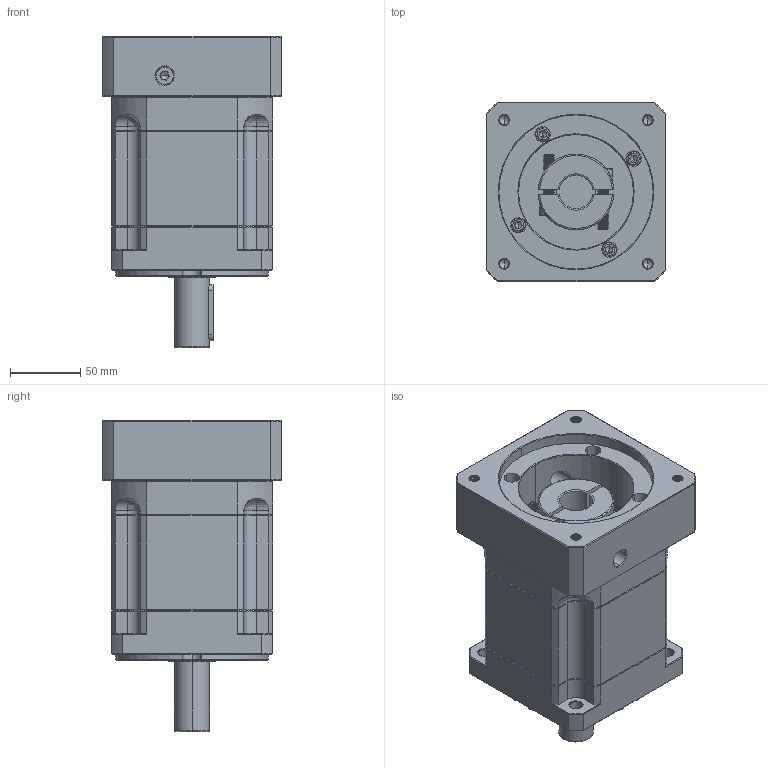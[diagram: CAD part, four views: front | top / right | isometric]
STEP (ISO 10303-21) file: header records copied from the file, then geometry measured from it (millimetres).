
FILE_DESCRIPTION (( 'STEP AP214' ), '1' );
FILE_NAME ('ZB115A-D25-L2-P2-24-110-145-M8.step', '2023-08-26T06:24:00', ( '' ), ( '' ), 'SwSTEP 2.0', 'SolidWorks 2016', '' );
FILE_SCHEMA (( 'AUTOMOTIVE_DESIGN' ));
Length unit declared in the file: millimetre
Products named in the file (1): ZB115A-D25-L2-P2-24-110-145-M8
Bounding box: 128 x 128 x 222 mm (x, y, z)
Volume: 1940742.9 mm3; surface area: 190059.5 mm2
Topology: 6 solids, 6 shells, 2390 faces, 6267 edges, 3976 vertices
Faces by surface type: plane 1143, cylinder 439, bspline 423, cone 365, torus 20
Entity records: 128666 total; most frequent: CARTESIAN_POINT 47120, ORIENTED_EDGE 12466, DIRECTION 9863, EDGE_CURVE 6233, LINE 3993, VECTOR 3993, VERTEX_POINT 3976, AXIS2_PLACEMENT_3D 2935
